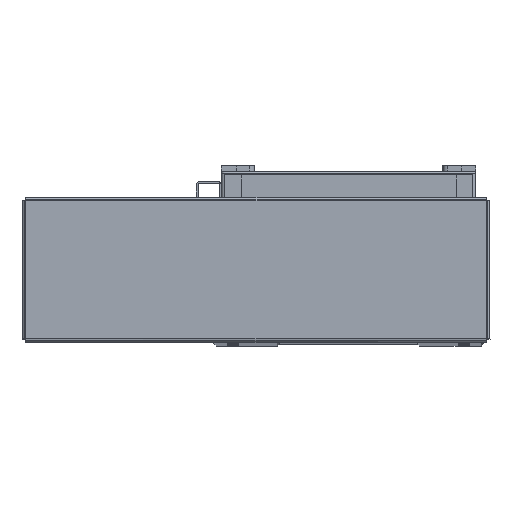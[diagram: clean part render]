
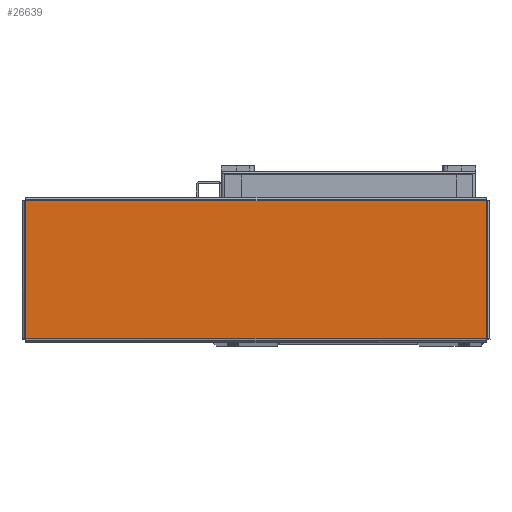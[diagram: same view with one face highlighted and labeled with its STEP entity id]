
A CAD part, top view. The second image highlights one B-rep face of the part: STEP entity #26639.
In plain terms, the highlighted planar face has unit normal (0, 0, 1) as drawn and (0, -1, 0) by its records, which use the part's own axes.
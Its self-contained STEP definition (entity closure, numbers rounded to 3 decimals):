
#4631 = ORIENTED_EDGE ( 'NONE', *, *, #28374, .T. ) ;
#4643 = ORIENTED_EDGE ( 'NONE', *, *, #28359, .T. ) ;
#4669 = ORIENTED_EDGE ( 'NONE', *, *, #28473, .T. ) ;
#4672 = ORIENTED_EDGE ( 'NONE', *, *, #28494, .T. ) ;
#13913 = CARTESIAN_POINT ( 'NONE',  ( 0., -1.5, 0. ) ) ;
#13983 = PLANE ( 'NONE',  #18090 ) ;
#14006 = DIRECTION ( 'NONE',  ( 0., 1., 0. ) ) ;
#14008 = DIRECTION ( 'NONE',  ( 0., 0., 1. ) ) ;
#18090 = AXIS2_PLACEMENT_3D ( 'NONE', #13913, #14006, #14008 ) ;
#20435 = VECTOR ( 'NONE', #21297, 1000. ) ;
#20449 = LINE ( 'NONE', #21345, #20435 ) ;
#20545 = LINE ( 'NONE', #21424, #20589 ) ;
#20589 = VECTOR ( 'NONE', #21407, 1000. ) ;
#20760 = LINE ( 'NONE', #22032, #20762 ) ;
#20762 = VECTOR ( 'NONE', #22086, 1000. ) ;
#20888 = VECTOR ( 'NONE', #22193, 1000. ) ;
#20927 = LINE ( 'NONE', #22138, #20888 ) ;
#21297 = DIRECTION ( 'NONE',  ( -1., 0., 0. ) ) ;
#21345 = CARTESIAN_POINT ( 'NONE',  ( 139.293, -1.5, 41.763 ) ) ;
#21407 = DIRECTION ( 'NONE',  ( 0., 0., -1. ) ) ;
#21424 = CARTESIAN_POINT ( 'NONE',  ( -139.263, -1.5, 41.793 ) ) ;
#22032 = CARTESIAN_POINT ( 'NONE',  ( 139.263, -1.5, -41.793 ) ) ;
#22086 = DIRECTION ( 'NONE',  ( 0., 0., 1. ) ) ;
#22138 = CARTESIAN_POINT ( 'NONE',  ( -139.293, -1.5, -41.763 ) ) ;
#22193 = DIRECTION ( 'NONE',  ( 1., 0., 0. ) ) ;
#26639 = ADVANCED_FACE ( 'NONE', ( #34030 ), #13983, .F. ) ;
#28359 = EDGE_CURVE ( 'NONE', #32507, #32445, #20449, .T. ) ;
#28374 = EDGE_CURVE ( 'NONE', #32445, #32509, #20545, .T. ) ;
#28473 = EDGE_CURVE ( 'NONE', #32457, #32507, #20760, .T. ) ;
#28494 = EDGE_CURVE ( 'NONE', #32509, #32457, #20927, .T. ) ;
#32445 = VERTEX_POINT ( 'NONE', #43935 ) ;
#32457 = VERTEX_POINT ( 'NONE', #43926 ) ;
#32507 = VERTEX_POINT ( 'NONE', #44017 ) ;
#32509 = VERTEX_POINT ( 'NONE', #43983 ) ;
#34030 = FACE_OUTER_BOUND ( 'NONE', #38750, .T. ) ;
#38750 = EDGE_LOOP ( 'NONE', ( #4669, #4643, #4631, #4672 ) ) ;
#43926 = CARTESIAN_POINT ( 'NONE',  ( 139.263, -1.5, -41.763 ) ) ;
#43935 = CARTESIAN_POINT ( 'NONE',  ( -139.263, -1.5, 41.763 ) ) ;
#43983 = CARTESIAN_POINT ( 'NONE',  ( -139.263, -1.5, -41.763 ) ) ;
#44017 = CARTESIAN_POINT ( 'NONE',  ( 139.263, -1.5, 41.763 ) ) ;
